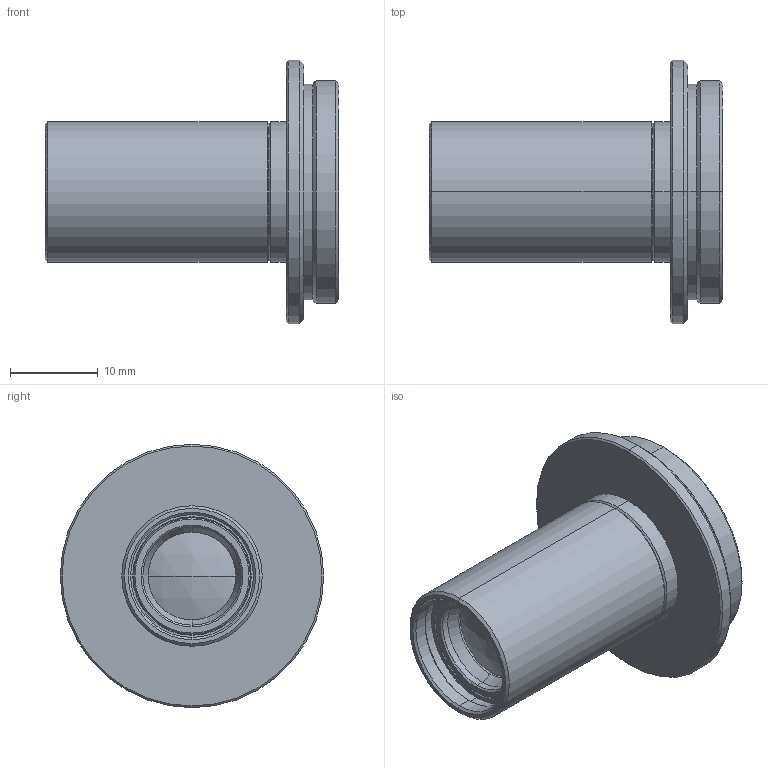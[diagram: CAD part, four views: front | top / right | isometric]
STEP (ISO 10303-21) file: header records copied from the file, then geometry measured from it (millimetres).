
FILE_DESCRIPTION (( 'STEP AP203' ), '1' );
FILE_NAME ('VS-MC03-100.STEP', '2013-09-04T06:42:24', ( 'VS Technology' ), ( '' ), 'SwSTEP 2.0', 'SolidWorks 2012', '' );
FILE_SCHEMA (( 'CONFIG_CONTROL_DESIGN' ));
Length unit declared in the file: millimetre
Products named in the file (1): VS-MC03-100
Bounding box: 33.48 x 30 x 30 mm (x, y, z)
Volume: 5795.2 mm3; surface area: 4151 mm2
Topology: 1 solids, 1 shells, 73 faces, 148 edges, 86 vertices
Faces by surface type: cone 36, cylinder 24, plane 9, sphere 4
Entity records: 1983 total; most frequent: DIRECTION 384, CARTESIAN_POINT 308, ORIENTED_EDGE 296, AXIS2_PLACEMENT_3D 162, EDGE_CURVE 148, CIRCLE 88, VERTEX_POINT 86, EDGE_LOOP 82
